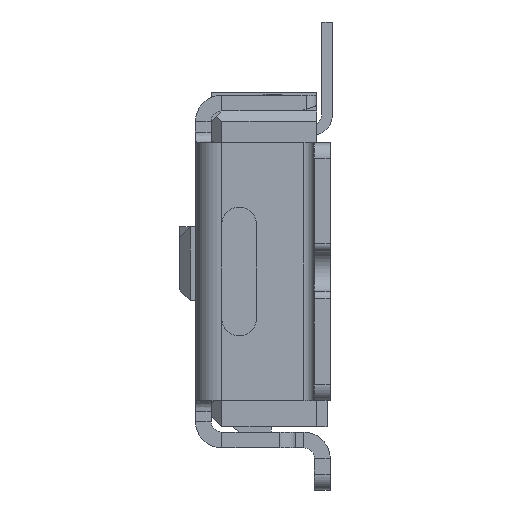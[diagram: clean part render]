
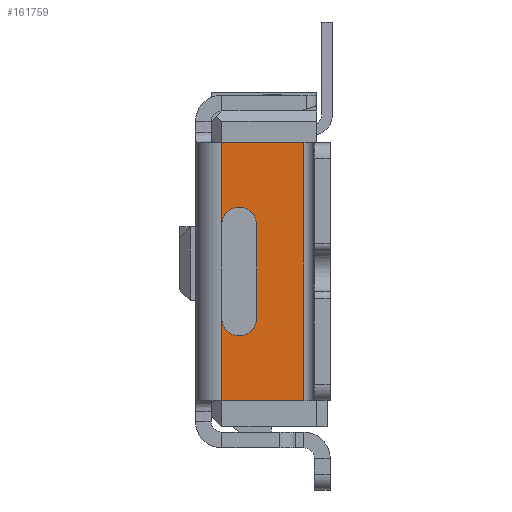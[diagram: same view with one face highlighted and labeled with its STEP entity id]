
A CAD part, left-side view. The second image highlights one B-rep face of the part: STEP entity #161759.
In plain terms, the highlighted planar face has unit normal (-1, 0, 0).
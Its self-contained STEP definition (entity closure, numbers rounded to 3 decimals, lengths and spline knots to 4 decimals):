
#61483=CARTESIAN_POINT('',(-0.175,0.835,
-1.255));
#61484=DIRECTION('',(-1.,0.,0.));
#61485=DIRECTION('',(0.,-1.,0.));
#61486=AXIS2_PLACEMENT_3D('',#61483,#61484,#61485);
#61488=DIRECTION('',(0.,0.,1.));
#61489=VECTOR('',#61488,0.78);
#61490=CARTESIAN_POINT('',(-0.175,1.,
-1.255));
#61491=LINE('',#61490,#61489);
#61492=DIRECTION('',(0.,0.,1.));
#61493=VECTOR('',#61492,0.78);
#61494=CARTESIAN_POINT('',(-0.175,1.,
-2.925));
#61495=LINE('',#61494,#61493);
#61496=CARTESIAN_POINT('',(-0.175,0.835,
-2.145));
#61497=DIRECTION('',(-1.,0.,0.));
#61498=DIRECTION('',(0.,1.,0.));
#61499=AXIS2_PLACEMENT_3D('',#61496,#61497,#61498);
#61501=DIRECTION('',(0.,0.,-1.));
#61502=VECTOR('',#61501,0.89);
#61503=CARTESIAN_POINT('',(-0.175,0.67,
-1.255));
#61504=LINE('',#61503,#61502);
#61566=DIRECTION('',(0.,-1.,0.));
#61567=VECTOR('',#61566,0.78);
#61568=CARTESIAN_POINT('',(-0.175,1.,
-2.925));
#61569=LINE('',#61568,#61567);
#61597=DIRECTION('',(0.,0.,1.));
#61598=VECTOR('',#61597,2.45);
#61599=CARTESIAN_POINT('',(-0.175,0.22,
-2.925));
#61600=LINE('',#61599,#61598);
#61619=DIRECTION('',(0.,1.,0.));
#61620=VECTOR('',#61619,0.78);
#61621=CARTESIAN_POINT('',(-0.175,0.22,
-0.475));
#61622=LINE('',#61621,#61620);
#79774=CARTESIAN_POINT('',(-0.175,1.,
-1.255));
#79775=CARTESIAN_POINT('',(-0.175,1.,
-0.475));
#79776=VERTEX_POINT('',#79774);
#79777=VERTEX_POINT('',#79775);
#79778=CARTESIAN_POINT('',(-0.175,1.,
-2.145));
#79779=VERTEX_POINT('',#79778);
#79780=CARTESIAN_POINT('',(-0.175,1.,
-2.925));
#79781=VERTEX_POINT('',#79780);
#79783=CARTESIAN_POINT('',(-0.175,0.67,
-1.255));
#79784=VERTEX_POINT('',#79783);
#79785=CARTESIAN_POINT('',(-0.175,0.22,
-2.925));
#79786=VERTEX_POINT('',#79785);
#79787=CARTESIAN_POINT('',(-0.175,0.67,
-2.145));
#79788=VERTEX_POINT('',#79787);
#79810=CARTESIAN_POINT('',(-0.175,0.22,
-0.475));
#79811=VERTEX_POINT('',#79810);
#161738=CARTESIAN_POINT('',(-0.175,0.61,
-1.7));
#161739=DIRECTION('',(1.,0.,0.));
#161740=DIRECTION('',(0.,-1.,0.));
#161741=AXIS2_PLACEMENT_3D('',#161738,#161739,#161740);
#161742=PLANE('',#161741);
#161744=ORIENTED_EDGE('',*,*,#161743,.T.);
#161745=ORIENTED_EDGE('',*,*,#161721,.T.);
#161747=ORIENTED_EDGE('',*,*,#161746,.F.);
#161749=ORIENTED_EDGE('',*,*,#161748,.F.);
#161751=ORIENTED_EDGE('',*,*,#161750,.F.);
#161752=ORIENTED_EDGE('',*,*,#161725,.T.);
#161754=ORIENTED_EDGE('',*,*,#161753,.T.);
#161756=ORIENTED_EDGE('',*,*,#161755,.F.);
#161757=EDGE_LOOP('',(#161744,#161745,#161747,#161749,#161751,#161752,#161754,
#161756));
#161758=FACE_OUTER_BOUND('',#161757,.F.);
#61487=CIRCLE('',#61486,0.165);
#61500=CIRCLE('',#61499,0.165);
#161721=EDGE_CURVE('',#79776,#79777,#61491,.T.);
#161725=EDGE_CURVE('',#79781,#79779,#61495,.T.);
#161743=EDGE_CURVE('',#79784,#79776,#61487,.T.);
#161746=EDGE_CURVE('',#79811,#79777,#61622,.T.);
#161748=EDGE_CURVE('',#79786,#79811,#61600,.T.);
#161750=EDGE_CURVE('',#79781,#79786,#61569,.T.);
#161753=EDGE_CURVE('',#79779,#79788,#61500,.T.);
#161755=EDGE_CURVE('',#79784,#79788,#61504,.T.);
#161759=ADVANCED_FACE('',(#161758),#161742,.F.);
